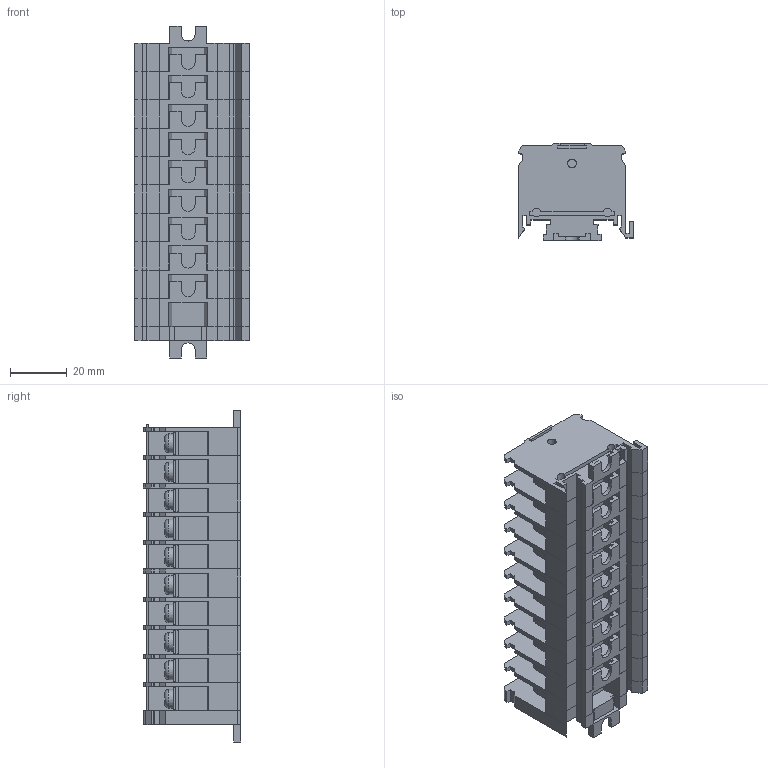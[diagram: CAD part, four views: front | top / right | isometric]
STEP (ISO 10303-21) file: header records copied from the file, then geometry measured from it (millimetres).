
FILE_DESCRIPTION (( 'STEP AP203' ), '1' );
FILE_NAME ('tk-020 孰屐祉 蝈痨桧嚯 TK-020 漕 2,5 祆2 20A.STEP', '2017-02-08T16:34:07', ( 'kuryshev' ), ( '' ), 'SwSTEP 2.0', 'SolidWorks 2010', '' );
FILE_SCHEMA (( 'CONFIG_CONTROL_DESIGN' ));
Products named in the file (1): tk-020 孰屐祉 蝈痨桧嚯 TK-020 漕 2,5 祆2 20A
Bounding box: 40.55 x 34.3 x 117 mm (x, y, z)
Volume: 54038.6 mm3; surface area: 76884.6 mm2
Topology: 63 solids, 63 shells, 2184 faces, 5798 edges, 3852 vertices
Faces by surface type: plane 1866, cylinder 278, torus 40
Entity records: 67711 total; most frequent: CARTESIAN_POINT 13235, ORIENTED_EDGE 11596, DIRECTION 10564, EDGE_CURVE 5798, LINE 4842, VECTOR 4842, VERTEX_POINT 3852, AXIS2_PLACEMENT_3D 2861
